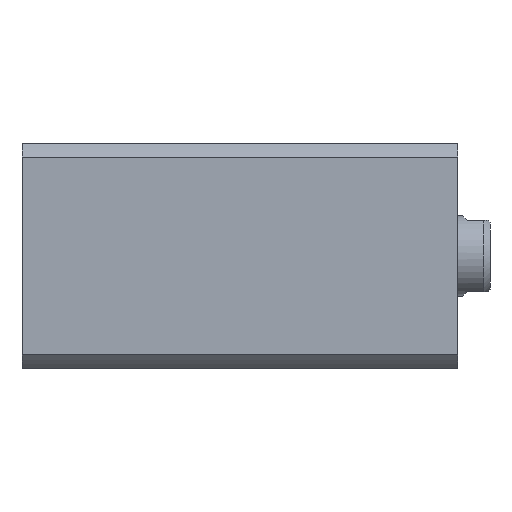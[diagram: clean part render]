
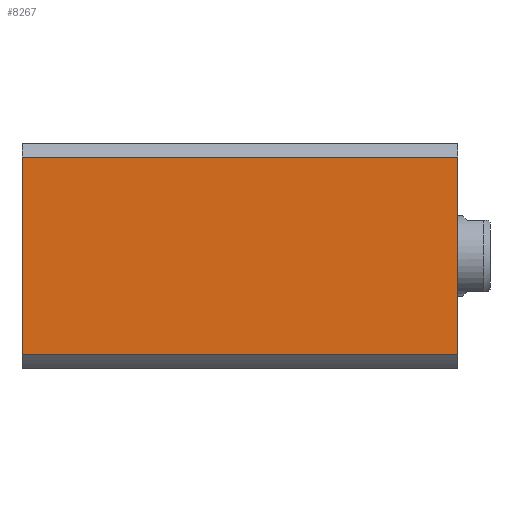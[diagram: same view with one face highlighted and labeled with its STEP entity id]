
A CAD part, left-side view. The second image highlights one B-rep face of the part: STEP entity #8267.
In plain terms, the highlighted planar face has unit normal (-1, 0, 0).
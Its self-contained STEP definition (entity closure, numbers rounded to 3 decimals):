
#180 = CARTESIAN_POINT ( 'NONE',  ( -35., 30.615, 300. ) ) ;
#208 = ORIENTED_EDGE ( 'NONE', *, *, #869, .F. ) ;
#282 = DIRECTION ( 'NONE',  ( 0., 0., 1. ) ) ;
#362 = VERTEX_POINT ( 'NONE', #4333 ) ;
#448 = EDGE_LOOP ( 'NONE', ( #208, #2947, #1620, #9570 ) ) ;
#491 = LINE ( 'NONE', #3246, #4705 ) ;
#721 = PLANE ( 'NONE',  #5521 ) ;
#788 = DIRECTION ( 'NONE',  ( 0., 1., 0. ) ) ;
#802 = EDGE_CURVE ( 'NONE', #3610, #2279, #2597, .T. ) ;
#869 = EDGE_CURVE ( 'NONE', #6843, #362, #491, .T. ) ;
#1620 = ORIENTED_EDGE ( 'NONE', *, *, #802, .F. ) ;
#1718 = VECTOR ( 'NONE', #5386, 1000. ) ;
#2255 = EDGE_CURVE ( 'NONE', #2279, #6843, #7991, .T. ) ;
#2279 = VERTEX_POINT ( 'NONE', #4618 ) ;
#2597 = LINE ( 'NONE', #180, #8615 ) ;
#2646 = CARTESIAN_POINT ( 'NONE',  ( -35., -30.615, 135. ) ) ;
#2947 = ORIENTED_EDGE ( 'NONE', *, *, #2255, .F. ) ;
#3246 = CARTESIAN_POINT ( 'NONE',  ( -35., -30.615, 300. ) ) ;
#3473 = VECTOR ( 'NONE', #6548, 1000. ) ;
#3610 = VERTEX_POINT ( 'NONE', #8591 ) ;
#4115 = DIRECTION ( 'NONE',  ( 0., 0., -1. ) ) ;
#4333 = CARTESIAN_POINT ( 'NONE',  ( -35., -30.615, 0. ) ) ;
#4618 = CARTESIAN_POINT ( 'NONE',  ( -35., 30.615, 135. ) ) ;
#4705 = VECTOR ( 'NONE', #4115, 1000. ) ;
#4742 = CARTESIAN_POINT ( 'NONE',  ( -35., 35., 135. ) ) ;
#5386 = DIRECTION ( 'NONE',  ( 0., -1., 0. ) ) ;
#5488 = CARTESIAN_POINT ( 'NONE',  ( -35., 35., 135. ) ) ;
#5521 = AXIS2_PLACEMENT_3D ( 'NONE', #4742, #5547, #788 ) ;
#5547 = DIRECTION ( 'NONE',  ( 1., 0., 0. ) ) ;
#6541 = FACE_OUTER_BOUND ( 'NONE', #448, .T. ) ;
#6548 = DIRECTION ( 'NONE',  ( 0., -1., 0. ) ) ;
#6843 = VERTEX_POINT ( 'NONE', #2646 ) ;
#7991 = LINE ( 'NONE', #5488, #1718 ) ;
#8125 = CARTESIAN_POINT ( 'NONE',  ( -35., 35., 0. ) ) ;
#8267 = ADVANCED_FACE ( 'NONE', ( #6541 ), #721, .F. ) ;
#8591 = CARTESIAN_POINT ( 'NONE',  ( -35., 30.615, 0. ) ) ;
#8615 = VECTOR ( 'NONE', #282, 1000. ) ;
#9570 = ORIENTED_EDGE ( 'NONE', *, *, #9769, .T. ) ;
#9721 = LINE ( 'NONE', #8125, #3473 ) ;
#9769 = EDGE_CURVE ( 'NONE', #3610, #362, #9721, .T. ) ;
